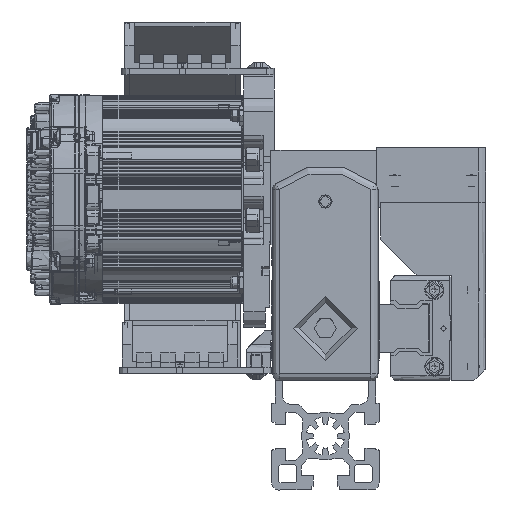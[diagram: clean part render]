
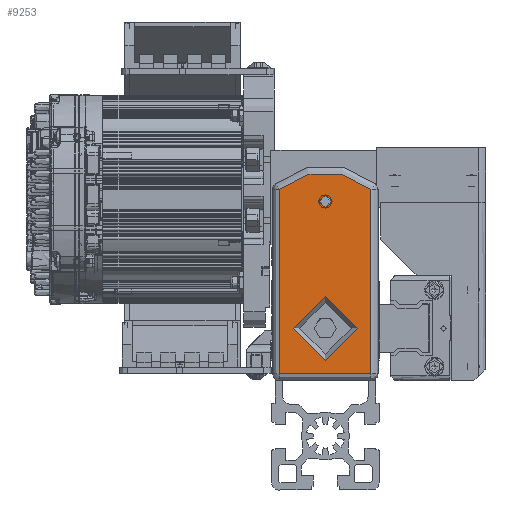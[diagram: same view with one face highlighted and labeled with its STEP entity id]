
A CAD part, front view. The second image highlights one B-rep face of the part: STEP entity #9253.
In plain terms, the highlighted planar face has unit normal (0, -1, 0) as drawn and (1, 0, 0) by its records, which use the part's own axes.
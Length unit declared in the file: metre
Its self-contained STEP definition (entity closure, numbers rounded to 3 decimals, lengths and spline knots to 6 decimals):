
#9253 = ADVANCED_FACE( '', ( #23035, #23036, #23037 ), #23038, .T. );
#23035 = FACE_BOUND( '', #47289, .T. );
#23036 = FACE_OUTER_BOUND( '', #47290, .T. );
#23037 = FACE_BOUND( '', #47291, .T. );
#23038 = PLANE( '', #47292 );
#47289 = EDGE_LOOP( '', ( #134984 ) );
#47290 = EDGE_LOOP( '', ( #134985, #134986, #134987, #134988 ) );
#47291 = EDGE_LOOP( '', ( #134989 ) );
#47292 = AXIS2_PLACEMENT_3D( '', #134990, #134991, #134992 );
#134984 = ORIENTED_EDGE( '', *, *, #184590, .T. );
#134985 = ORIENTED_EDGE( '', *, *, #184591, .T. );
#134986 = ORIENTED_EDGE( '', *, *, #184592, .T. );
#134987 = ORIENTED_EDGE( '', *, *, #184593, .T. );
#134988 = ORIENTED_EDGE( '', *, *, #184594, .T. );
#134989 = ORIENTED_EDGE( '', *, *, #184595, .F. );
#134990 = CARTESIAN_POINT( '', ( 0.00144, -0.022, 0.05928 ) );
#134991 = DIRECTION( '', ( 1., 0., 0. ) );
#134992 = DIRECTION( '', ( 0., 0., -1. ) );
#184590 = EDGE_CURVE( '', #206714, #206714, #206715, .T. );
#184591 = EDGE_CURVE( '', #206716, #206717, #206718, .T. );
#184592 = EDGE_CURVE( '', #206717, #206719, #206720, .T. );
#184593 = EDGE_CURVE( '', #206719, #206721, #206722, .T. );
#184594 = EDGE_CURVE( '', #206721, #206716, #206723, .T. );
#184595 = EDGE_CURVE( '', #206724, #206724, #206725, .T. );
#206714 = VERTEX_POINT( '', #241820 );
#206715 = CIRCLE( '', #241821, 0.003 );
#206716 = VERTEX_POINT( '', #241822 );
#206717 = VERTEX_POINT( '', #241823 );
#206718 = LINE( '', #241824, #241825 );
#206719 = VERTEX_POINT( '', #241826 );
#206720 = LINE( '', #241827, #241828 );
#206721 = VERTEX_POINT( '', #241829 );
#206722 = CIRCLE( '', #241830, 0.02875 );
#206723 = LINE( '', #241831, #241832 );
#206724 = VERTEX_POINT( '', #241833 );
#206725 = CIRCLE( '', #241834, 0.01344 );
#241820 = CARTESIAN_POINT( '', ( 0.00144, 0., 0.05593 ) );
#241821 = AXIS2_PLACEMENT_3D( '', #319425, #319426, #319427 );
#241822 = CARTESIAN_POINT( '', ( 0.00144, -0.019, -0.019 ) );
#241823 = CARTESIAN_POINT( '', ( 0.00144, 0.019, -0.019 ) );
#241824 = CARTESIAN_POINT( '', ( 0.00144, 0.019, -0.019 ) );
#241825 = VECTOR( '', #319428, 1. );
#241826 = CARTESIAN_POINT( '', ( 0.00144, 0.019, 0.057964 ) );
#241827 = CARTESIAN_POINT( '', ( 0.00144, 0.019, 0.057964 ) );
#241828 = VECTOR( '', #319429, 1. );
#241829 = CARTESIAN_POINT( '', ( 0.00144, -0.019, 0.057964 ) );
#241830 = AXIS2_PLACEMENT_3D( '', #319430, #319431, #319432 );
#241831 = CARTESIAN_POINT( '', ( 0.00144, -0.019, -0.019 ) );
#241832 = VECTOR( '', #319433, 1. );
#241833 = CARTESIAN_POINT( '', ( 0.00144, 0., -0.01344 ) );
#241834 = AXIS2_PLACEMENT_3D( '', #319434, #319435, #319436 );
#319425 = CARTESIAN_POINT( '', ( 0.00144, 0., 0.05293 ) );
#319426 = DIRECTION( '', ( -1., 0., 0. ) );
#319427 = DIRECTION( '', ( 0., 0., 1. ) );
#319428 = DIRECTION( '', ( 0., 1., 0. ) );
#319429 = DIRECTION( '', ( 0., 0., 1. ) );
#319430 = CARTESIAN_POINT( '', ( 0.00144, 0., 0.036388 ) );
#319431 = DIRECTION( '', ( 1., 0., 0. ) );
#319432 = DIRECTION( '', ( 0., 0., -1. ) );
#319433 = DIRECTION( '', ( 0., 0., -1. ) );
#319434 = CARTESIAN_POINT( '', ( 0.00144, 0., 0. ) );
#319435 = DIRECTION( '', ( 1., 0., 0. ) );
#319436 = DIRECTION( '', ( 0., 0., -1. ) );
